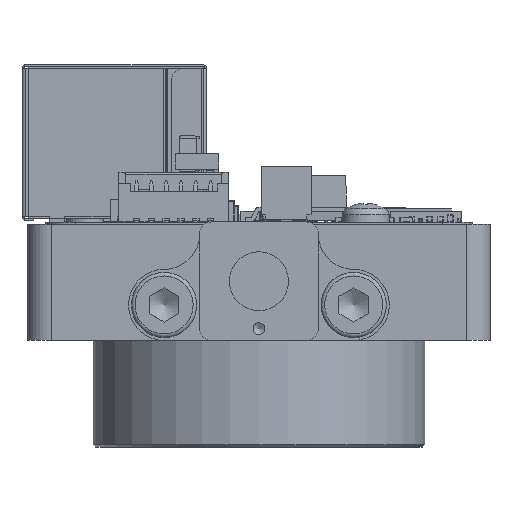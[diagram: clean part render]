
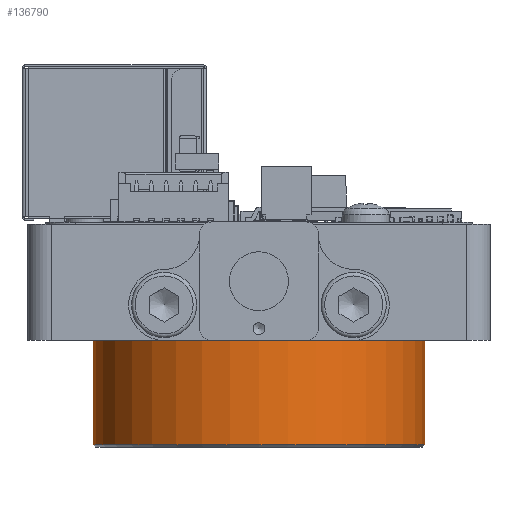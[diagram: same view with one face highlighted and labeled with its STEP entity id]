
A CAD part, front view. The second image highlights one B-rep face of the part: STEP entity #136790.
In plain terms, the highlighted cylindrical face has radius 14 mm (diameter 28 mm), a full revolution.
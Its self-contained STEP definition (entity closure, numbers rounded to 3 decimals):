
#2214=CYLINDRICAL_SURFACE('',#145666,14.);
#5432=CIRCLE('',#145659,14.);
#5436=CIRCLE('',#145667,14.);
#5437=CIRCLE('',#145668,14.);
#12799=FACE_OUTER_BOUND('',#20978,.T.);
#20978=EDGE_LOOP('',(#94345,#94346,#94347,#94348,#94349));
#32211=LINE('',#209248,#45304);
#45304=VECTOR('',#166589,14.);
#57132=VERTEX_POINT('',#209230);
#57136=VERTEX_POINT('',#209244);
#57137=VERTEX_POINT('',#209245);
#70120=EDGE_CURVE('',#57132,#57132,#5432,.T.);
#70126=EDGE_CURVE('',#57136,#57137,#5436,.T.);
#70127=EDGE_CURVE('',#57137,#57136,#5437,.T.);
#70128=EDGE_CURVE('',#57137,#57132,#32211,.T.);
#94345=ORIENTED_EDGE('',*,*,#70126,.F.);
#94346=ORIENTED_EDGE('',*,*,#70127,.F.);
#94347=ORIENTED_EDGE('',*,*,#70128,.T.);
#94348=ORIENTED_EDGE('',*,*,#70120,.F.);
#94349=ORIENTED_EDGE('',*,*,#70128,.F.);
#136790=ADVANCED_FACE('',(#12799),#2214,.T.);
#145659=AXIS2_PLACEMENT_3D('',#209231,#166567,#166568);
#145666=AXIS2_PLACEMENT_3D('',#209243,#166583,#166584);
#145667=AXIS2_PLACEMENT_3D('',#209246,#166585,#166586);
#145668=AXIS2_PLACEMENT_3D('',#209247,#166587,#166588);
#166567=DIRECTION('center_axis',(0.,0.,1.));
#166568=DIRECTION('ref_axis',(-1.,0.,0.));
#166583=DIRECTION('center_axis',(0.,0.,-1.));
#166584=DIRECTION('ref_axis',(-1.,0.,0.));
#166585=DIRECTION('center_axis',(0.,0.,-1.));
#166586=DIRECTION('ref_axis',(1.,0.,0.));
#166587=DIRECTION('center_axis',(0.,0.,-1.));
#166588=DIRECTION('ref_axis',(1.,0.,0.));
#166589=DIRECTION('',(0.,0.,1.));
#209230=CARTESIAN_POINT('',(14.,0.,0.));
#209231=CARTESIAN_POINT('Origin',(0.,0.,0.));
#209243=CARTESIAN_POINT('Origin',(0.,0.,0.));
#209244=CARTESIAN_POINT('',(-14.,0.,-8.8));
#209245=CARTESIAN_POINT('',(14.,0.,-8.8));
#209246=CARTESIAN_POINT('Origin',(0.,0.,-8.8));
#209247=CARTESIAN_POINT('Origin',(0.,0.,-8.8));
#209248=CARTESIAN_POINT('',(14.,0.,0.));
